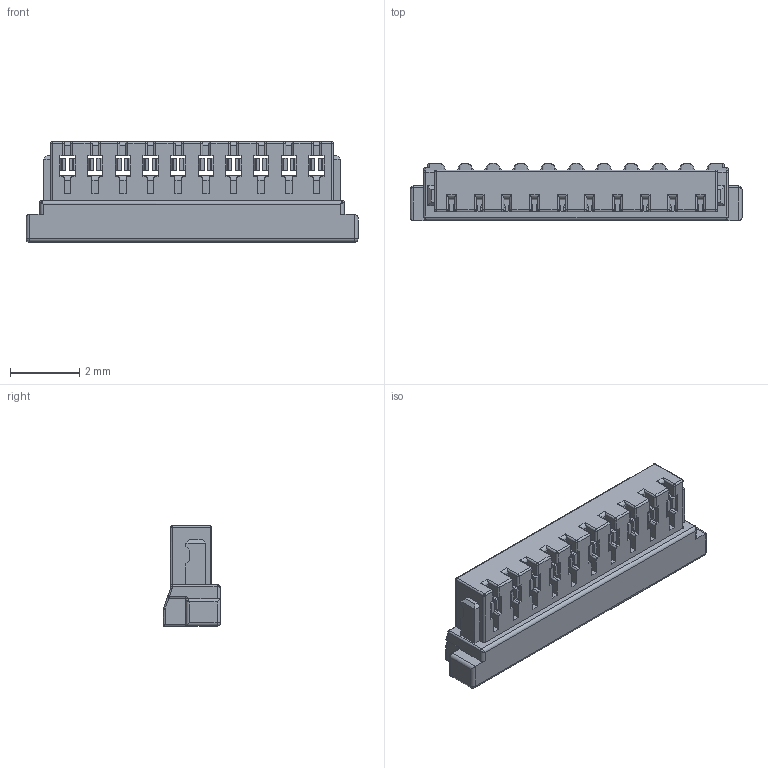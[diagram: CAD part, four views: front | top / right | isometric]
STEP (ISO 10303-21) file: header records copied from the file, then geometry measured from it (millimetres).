
FILE_DESCRIPTION((''),'2;1');
FILE_NAME('10PIN_ASM','2011-07-11T',('ouchwu'),(''),'PRO/ENGINEER BY PARAMETRIC TECHNOLOGY CORPORATION, 2007450','PRO/ENGINEER BY PARAMETRIC TECHNOLOGY CORPORATION, 2007450','');
FILE_SCHEMA(('CONFIG_CONTROL_DESIGN'));
Length unit declared in the file: millimetre
Products named in the file (1): 10PIN_ASM
Bounding box: 9.6 x 1.65 x 2.9 mm (x, y, z)
Volume: 23 mm3; surface area: 170.2 mm2
Topology: 1 solids, 1 shells, 2042 faces, 5538 edges, 3394 vertices
Faces by surface type: plane 1474, cylinder 530, sphere 30, bspline 6, torus 2
Entity records: 63375 total; most frequent: CARTESIAN_POINT 11579, ORIENTED_EDGE 11068, DIRECTION 10572, EDGE_CURVE 5534, VECTOR 4400, LINE 4400, VERTEX_POINT 3394, AXIS2_PLACEMENT_3D 3086
